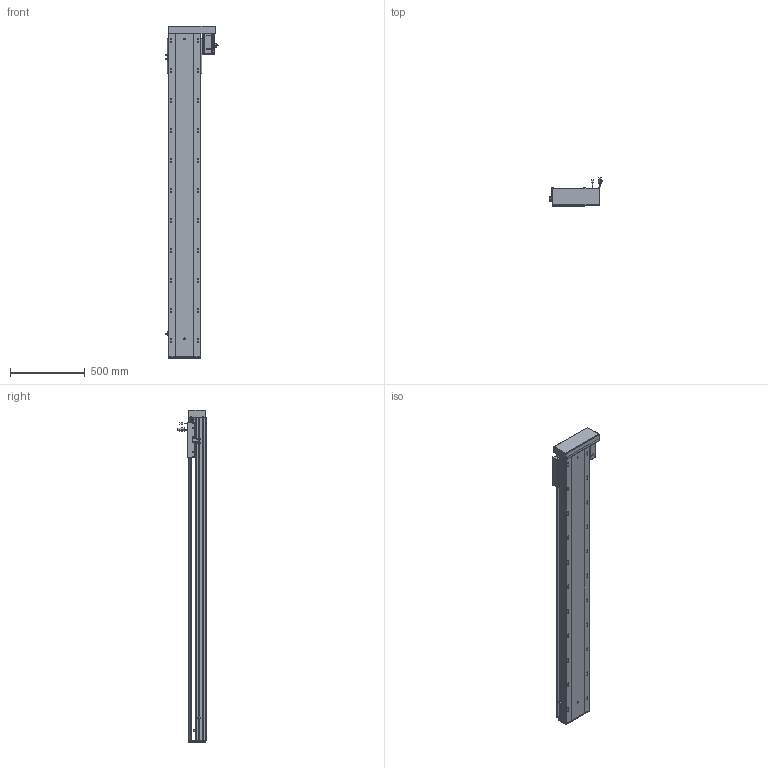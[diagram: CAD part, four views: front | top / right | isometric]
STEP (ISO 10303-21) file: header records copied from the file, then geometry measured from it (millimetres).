
FILE_DESCRIPTION (( 'STEP AP203' ), '1' );
FILE_NAME ('RY220-L2525-800-RK-邧嶺.SLDASM_1800.step', '2022-08-06T08:53:39', ( '' ), ( '' ), 'SwSTEP 2.0', 'SolidWorks 2016', '' );
FILE_SCHEMA (( 'CONFIG_CONTROL_DESIGN' ));
Length unit declared in the file: millimetre
Products named in the file (12): RY220半封闭25-32螺母铝滑块; RY220-俋离672覜茼んえ; 覜茼ん672; 怢湛750W_ECMA-CX0807ES; RY220左右折电机安装板; RY220蛌殏菁釱-800-邧嶺_1800; RY220綴裔啣; RY220酘衵殏萇儂欶; RY220-L2525-800-RK-邧嶺.SLDASM_1800; RY220-800-蛌殏奻裔啣_1800; 滅袉蝶18-10; 滅袉蝶18-15
Assembly tree (15 placements, depth 2):
  RY220-L2525-800-RK-邧嶺.SLDASM_1800
    RY220蛌殏菁釱-800-邧嶺_1800
    RY220-800-蛌殏奻裔啣_1800
    怢湛750W_ECMA-CX0807ES
    滅袉蝶18-10  x2
    RY220-俋离672覜茼んえ
    覜茼ん672  x3
    RY220綴裔啣
    RY220半封闭25-32螺母铝滑块
    滅袉蝶18-15  x2
    RY220左右折电机安装板
    RY220酘衵殏萇儂欶
Bounding box: 347.44 x 187.27 x 2214 mm (x, y, z)
Volume: 16916261.1 mm3; surface area: 5128485.8 mm2
Topology: 16 solids, 16 shells, 2335 faces, 6448 edges, 4047 vertices
Faces by surface type: cylinder 1083, plane 904, cone 278, bspline 44, sphere 16, torus 10
Entity records: 77091 total; most frequent: CARTESIAN_POINT 22151, ORIENTED_EDGE 11368, DIRECTION 10824, EDGE_CURVE 5684, AXIS2_PLACEMENT_3D 3845, VERTEX_POINT 3703, VECTOR 3134, LINE 3134
